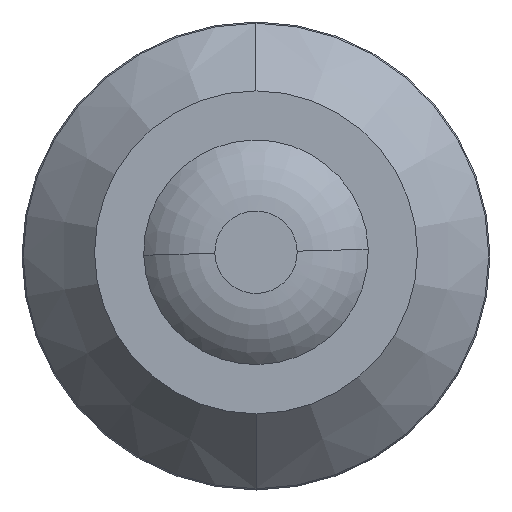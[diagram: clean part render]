
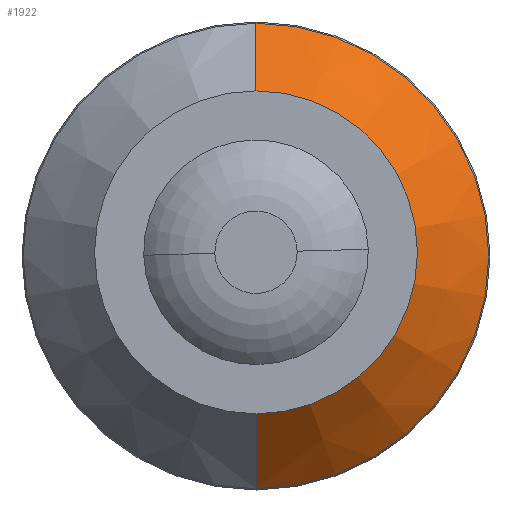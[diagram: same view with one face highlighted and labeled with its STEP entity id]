
A CAD part, top view. The second image highlights one B-rep face of the part: STEP entity #1922.
In plain terms, the highlighted conical face has half-angle 42.797 degrees and reference radius 12.5 mm.
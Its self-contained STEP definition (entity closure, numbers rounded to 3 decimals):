
#108 = AXIS2_PLACEMENT_3D ( 'NONE', #3386, #3387, #3388 ) ;
#854 = LINE ( 'NONE', #861, #3146 ) ;
#861 = CARTESIAN_POINT ( 'NONE',  ( 0., 0., 12.5 ) ) ;
#863 = DIRECTION ( 'NONE',  ( 0., -0.734, 0.679 ) ) ;
#916 = DIRECTION ( 'NONE',  ( 0., 0., -1. ) ) ;
#919 = FACE_OUTER_BOUND ( 'NONE', #1822, .T. ) ;
#920 = DIRECTION ( 'NONE',  ( 0., -1., 0. ) ) ;
#922 = CARTESIAN_POINT ( 'NONE',  ( 0., 0., 0. ) ) ;
#1306 = VERTEX_POINT ( 'NONE', #3284 ) ;
#1307 = VERTEX_POINT ( 'NONE', #3285 ) ;
#1310 = VERTEX_POINT ( 'NONE', #3288 ) ;
#1311 = VERTEX_POINT ( 'NONE', #3289 ) ;
#1822 = EDGE_LOOP ( 'NONE', ( #2078, #2079, #2080, #2081 ) ) ;
#1889 = EDGE_CURVE ( 'NONE', #1311, #1310, #3453, .T. ) ;
#1893 = EDGE_CURVE ( 'NONE', #1307, #1306, #3492, .T. ) ;
#1909 = EDGE_CURVE ( 'NONE', #1306, #1311, #854, .T. ) ;
#1922 = ADVANCED_FACE ( 'NONE', ( #919 ), #3471, .T. ) ;
#2078 = ORIENTED_EDGE ( 'NONE', *, *, #1893, .T. ) ;
#2079 = ORIENTED_EDGE ( 'NONE', *, *, #1909, .T. ) ;
#2080 = ORIENTED_EDGE ( 'NONE', *, *, #1889, .T. ) ;
#2081 = ORIENTED_EDGE ( 'NONE', *, *, #2336, .F. ) ;
#2336 = EDGE_CURVE ( 'NONE', #1307, #1310, #2863, .T. ) ;
#2471 = VECTOR ( 'NONE', #2865, 1000. ) ;
#2863 = LINE ( 'NONE', #2864, #2471 ) ;
#2864 = CARTESIAN_POINT ( 'NONE',  ( 0., 0., -12.5 ) ) ;
#2865 = DIRECTION ( 'NONE',  ( 0., -0.734, -0.679 ) ) ;
#3146 = VECTOR ( 'NONE', #863, 1000. ) ;
#3284 = CARTESIAN_POINT ( 'NONE',  ( 0., -0.16, 12.648 ) ) ;
#3285 = CARTESIAN_POINT ( 'NONE',  ( 0., -0.16, -12.648 ) ) ;
#3288 = CARTESIAN_POINT ( 'NONE',  ( 0., -13.356, -24.867 ) ) ;
#3289 = CARTESIAN_POINT ( 'NONE',  ( 0., -13.356, 24.867 ) ) ;
#3373 = CARTESIAN_POINT ( 'NONE',  ( 0., -13.356, 0. ) ) ;
#3374 = DIRECTION ( 'NONE',  ( 0., 1., 0. ) ) ;
#3375 = DIRECTION ( 'NONE',  ( 0., 0., 1. ) ) ;
#3386 = CARTESIAN_POINT ( 'NONE',  ( 0., -0.16, 0. ) ) ;
#3387 = DIRECTION ( 'NONE',  ( 0., -1., 0. ) ) ;
#3388 = DIRECTION ( 'NONE',  ( 0., 0., 1. ) ) ;
#3453 = CIRCLE ( 'NONE', #3464, 24.867 ) ;
#3459 = AXIS2_PLACEMENT_3D ( 'NONE', #922, #920, #916 ) ;
#3464 = AXIS2_PLACEMENT_3D ( 'NONE', #3373, #3374, #3375 ) ;
#3471 = CONICAL_SURFACE ( 'NONE', #3459, 12.5, 0.747 ) ;
#3492 = CIRCLE ( 'NONE', #108, 12.648 ) ;
